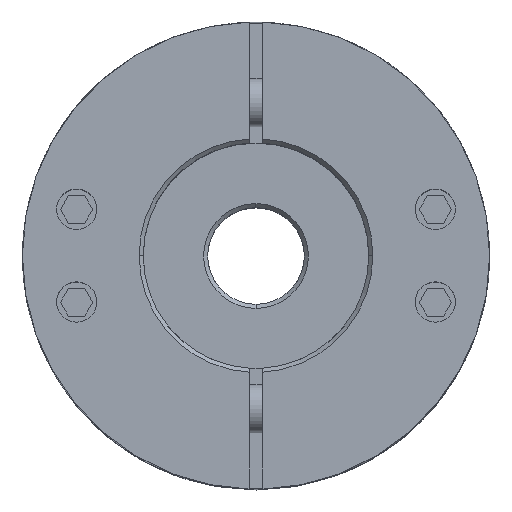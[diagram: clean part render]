
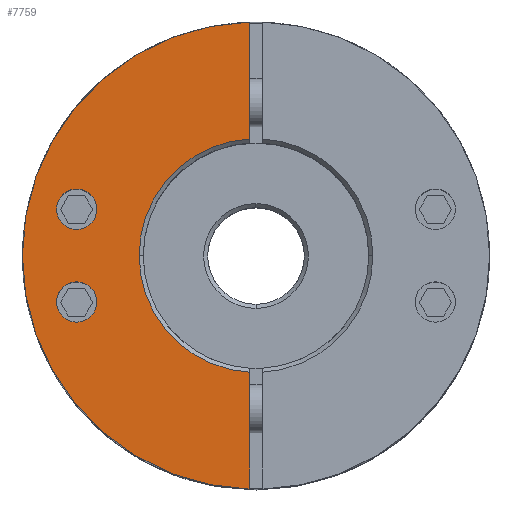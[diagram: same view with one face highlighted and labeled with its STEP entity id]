
A CAD part, top view. The second image highlights one B-rep face of the part: STEP entity #7759.
In plain terms, the highlighted planar face has unit normal (0, 0, 1).
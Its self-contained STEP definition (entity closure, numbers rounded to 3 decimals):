
#4373=CARTESIAN_POINT('',(-19.767,-5.759,27.125));
#4374=VERTEX_POINT('',#4373);
#4383=CARTESIAN_POINT('',(-24.767,-5.759,27.125));
#4384=VERTEX_POINT('',#4383);
#4385=CARTESIAN_POINT('',(-22.267,-5.759,27.125));
#4386=DIRECTION('',(0.0,0.0,-1.0));
#4387=DIRECTION('',(1.0,0.0,0.0));
#4388=AXIS2_PLACEMENT_3D('',#4385,#4386,#4387);
#4389=CIRCLE('',#4388,2.5);
#4390=EDGE_CURVE('',#4384,#4374,#4389,.T.);
#4499=CARTESIAN_POINT('',(-19.767,5.759,27.125));
#4500=VERTEX_POINT('',#4499);
#4509=CARTESIAN_POINT('',(-24.767,5.759,27.125));
#4510=VERTEX_POINT('',#4509);
#4511=CARTESIAN_POINT('',(-22.267,5.759,27.125));
#4512=DIRECTION('',(0.0,0.0,-1.0));
#4513=DIRECTION('',(1.0,0.0,0.0));
#4514=AXIS2_PLACEMENT_3D('',#4511,#4512,#4513);
#4515=CIRCLE('',#4514,2.5);
#4516=EDGE_CURVE('',#4510,#4500,#4515,.T.);
#4728=CARTESIAN_POINT('',(-29.0,0.,27.125));
#4729=VERTEX_POINT('',#4728);
#4736=CARTESIAN_POINT('',(-0.75,28.99,27.125));
#4737=VERTEX_POINT('',#4736);
#4738=CARTESIAN_POINT('',(0.0,0.0,27.125));
#4739=DIRECTION('',(0.0,0.0,-1.0));
#4740=DIRECTION('',(1.0,0.0,0.0));
#4741=AXIS2_PLACEMENT_3D('',#4738,#4739,#4740);
#4742=CIRCLE('',#4741,29.0);
#4743=EDGE_CURVE('',#4729,#4737,#4742,.T.);
#5090=CARTESIAN_POINT('',(-14.5,0.,27.125));
#5091=VERTEX_POINT('',#5090);
#5107=CARTESIAN_POINT('',(-0.75,14.481,27.125));
#5108=VERTEX_POINT('',#5107);
#5122=CARTESIAN_POINT('',(0.0,0.0,27.125));
#5123=DIRECTION('',(0.0,0.0,1.0));
#5124=DIRECTION('',(-1.0,0.0,0.0));
#5125=AXIS2_PLACEMENT_3D('',#5122,#5123,#5124);
#5126=CIRCLE('',#5125,14.5);
#5127=EDGE_CURVE('',#5108,#5091,#5126,.T.);
#7512=CARTESIAN_POINT('',(-0.75,-14.481,27.125));
#7513=VERTEX_POINT('',#7512);
#7514=CARTESIAN_POINT('',(0.0,0.0,27.125));
#7515=DIRECTION('',(0.0,0.0,1.0));
#7516=DIRECTION('',(-1.0,0.0,0.0));
#7517=AXIS2_PLACEMENT_3D('',#7514,#7515,#7516);
#7518=CIRCLE('',#7517,14.5);
#7519=EDGE_CURVE('',#5091,#7513,#7518,.T.);
#7552=CARTESIAN_POINT('',(-0.75,14.481,27.125));
#7553=DIRECTION('',(0.0,1.0,0.0));
#7554=VECTOR('',#7553,14.51);
#7555=LINE('',#7552,#7554);
#7556=EDGE_CURVE('',#5108,#4737,#7555,.T.);
#7666=CARTESIAN_POINT('',(-0.75,-28.99,27.125));
#7667=VERTEX_POINT('',#7666);
#7668=CARTESIAN_POINT('',(-0.75,-28.99,27.125));
#7669=DIRECTION('',(0.0,1.0,0.0));
#7670=VECTOR('',#7669,14.51);
#7671=LINE('',#7668,#7670);
#7672=EDGE_CURVE('',#7667,#7513,#7671,.T.);
#7720=CARTESIAN_POINT('',(2.636,0.,27.125));
#7721=DIRECTION('',(0.0,0.0,1.0));
#7722=DIRECTION('',(1.0,0.0,0.0));
#7723=AXIS2_PLACEMENT_3D('',#7720,#7721,#7722);
#7724=PLANE('',#7723);
#7725=ORIENTED_EDGE('',*,*,#5127,.F.);
#7726=ORIENTED_EDGE('',*,*,#7556,.T.);
#7727=ORIENTED_EDGE('',*,*,#4743,.F.);
#7728=CARTESIAN_POINT('',(0.0,0.0,27.125));
#7729=DIRECTION('',(0.0,0.0,-1.0));
#7730=DIRECTION('',(1.0,0.0,0.0));
#7731=AXIS2_PLACEMENT_3D('',#7728,#7729,#7730);
#7732=CIRCLE('',#7731,29.0);
#7733=EDGE_CURVE('',#7667,#4729,#7732,.T.);
#7734=ORIENTED_EDGE('',*,*,#7733,.F.);
#7735=ORIENTED_EDGE('',*,*,#7672,.T.);
#7736=ORIENTED_EDGE('',*,*,#7519,.F.);
#7737=EDGE_LOOP('',(#7725,#7726,#7727,#7734,#7735,#7736));
#7738=FACE_OUTER_BOUND('',#7737,.T.);
#7739=CARTESIAN_POINT('',(-22.267,-5.759,27.125));
#7740=DIRECTION('',(0.0,0.0,-1.0));
#7741=DIRECTION('',(1.0,0.0,0.0));
#7742=AXIS2_PLACEMENT_3D('',#7739,#7740,#7741);
#7743=CIRCLE('',#7742,2.5);
#7744=EDGE_CURVE('',#4374,#4384,#7743,.T.);
#7745=ORIENTED_EDGE('',*,*,#7744,.T.);
#7746=ORIENTED_EDGE('',*,*,#4390,.T.);
#7747=EDGE_LOOP('',(#7745,#7746));
#7748=FACE_BOUND('',#7747,.T.);
#7749=CARTESIAN_POINT('',(-22.267,5.759,27.125));
#7750=DIRECTION('',(0.0,0.0,-1.0));
#7751=DIRECTION('',(1.0,0.0,0.0));
#7752=AXIS2_PLACEMENT_3D('',#7749,#7750,#7751);
#7753=CIRCLE('',#7752,2.5);
#7754=EDGE_CURVE('',#4500,#4510,#7753,.T.);
#7755=ORIENTED_EDGE('',*,*,#7754,.T.);
#7756=ORIENTED_EDGE('',*,*,#4516,.T.);
#7757=EDGE_LOOP('',(#7755,#7756));
#7758=FACE_BOUND('',#7757,.T.);
#7759=ADVANCED_FACE('',(#7738,#7748,#7758),#7724,.T.);
